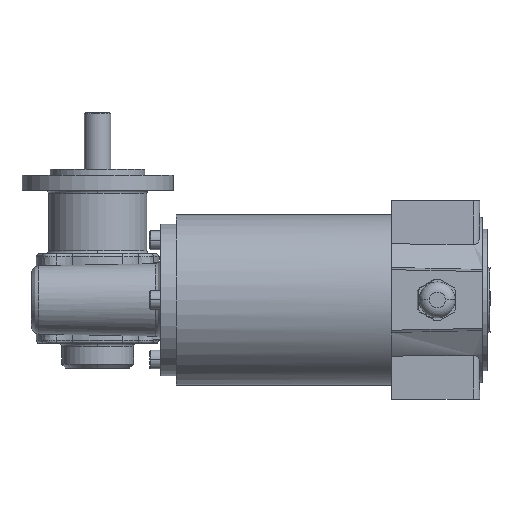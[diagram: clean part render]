
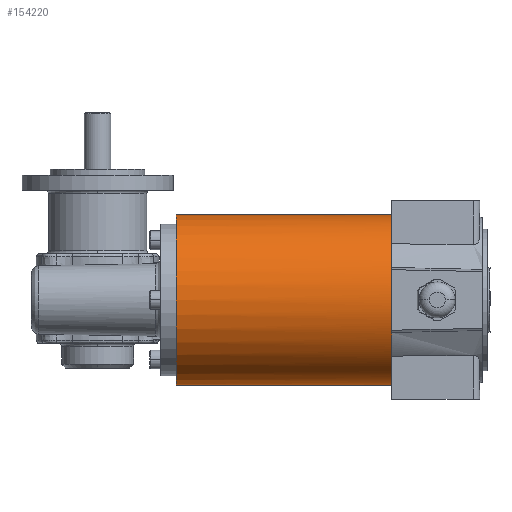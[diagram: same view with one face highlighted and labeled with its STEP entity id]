
A CAD part, front view. The second image highlights one B-rep face of the part: STEP entity #154220.
In plain terms, the highlighted cylindrical face has radius 45 mm (diameter 90 mm), a partial arc.
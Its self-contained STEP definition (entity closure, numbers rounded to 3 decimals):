
#21200=CARTESIAN_POINT('',(-64.,458.874,
-134.584));
#21210=DIRECTION('',(0.,1.,
-0.026));
#21220=DIRECTION('',(1.,0.,0.));
#21230=AXIS2_PLACEMENT_3D('',#21200,#21210,#21220);
#21240=CIRCLE('',#21230,45.);
#21250=CARTESIAN_POINT('',(-19.,458.874,
-134.584));
#21260=VERTEX_POINT('',#21250);
#21270=CARTESIAN_POINT('',(-109.,458.874,
-134.584));
#21280=VERTEX_POINT('',#21270);
#21290=EDGE_CURVE('',#21260,#21280,#21240,.T.);
#21360=CARTESIAN_POINT('',(-64.,458.874,
-134.584));
#21370=DIRECTION('',(0.,1.,
-0.026));
#21380=DIRECTION('',(1.,0.,0.));
#21390=AXIS2_PLACEMENT_3D('',#21360,#21370,#21380);
#21400=CYLINDRICAL_SURFACE('',#21390,45.);
#21410=CARTESIAN_POINT('',(-109.,458.874,
-134.584));
#21420=DIRECTION('',(0.,1.,
-0.026));
#21430=VECTOR('',#21420,1.);
#21440=LINE('',#21410,#21430);
#21450=CARTESIAN_POINT('',(-109.,572.835,
-137.568));
#21460=VERTEX_POINT('',#21450);
#21470=EDGE_CURVE('',#21280,#21460,#21440,.T.);
#21490=CARTESIAN_POINT('',(-64.,572.835,
-137.568));
#21500=DIRECTION('',(0.,1.,
-0.026));
#21510=DIRECTION('',(1.,0.,0.));
#21520=AXIS2_PLACEMENT_3D('',#21490,#21500,#21510);
#21530=CIRCLE('',#21520,45.);
#21540=CARTESIAN_POINT('',(-19.,572.835,
-137.568));
#21550=VERTEX_POINT('',#21540);
#21580=CARTESIAN_POINT('',(-19.,458.874,
-134.584));
#21590=DIRECTION('',(0.,1.,
-0.026));
#21600=VECTOR('',#21590,1.);
#21610=LINE('',#21580,#21600);
#21620=EDGE_CURVE('',#21260,#21550,#21610,.T.);
#21730=EDGE_CURVE('',#21550,#21460,#21530,.T.);
#154160=ORIENTED_EDGE('',*,*,#21730,.F.);
#154170=ORIENTED_EDGE('',*,*,#21470,.T.);
#154180=ORIENTED_EDGE('',*,*,#21290,.T.);
#154190=ORIENTED_EDGE('',*,*,#21620,.F.);
#154200=EDGE_LOOP('',(#154190,#154180,#154170,#154160));
#154210=FACE_OUTER_BOUND('',#154200,.T.);
#154220=ADVANCED_FACE('',(#154210),#21400,.T.);
